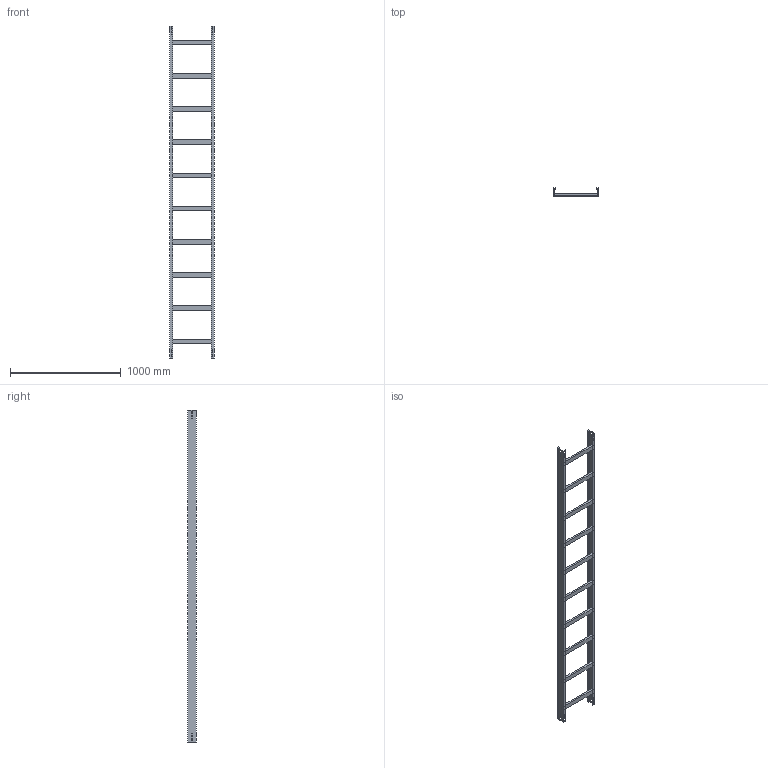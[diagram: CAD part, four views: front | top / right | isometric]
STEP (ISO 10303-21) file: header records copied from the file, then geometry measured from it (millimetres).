
FILE_DESCRIPTION (( 'STEP AP214' ), '1' );
FILE_NAME ('01B3C400.step', '2025-02-21T16:00:51', ( '' ), ( '' ), 'SwSTEP 2.0', 'SolidWorks 2023', '' );
FILE_SCHEMA (( 'AUTOMOTIVE_DESIGN' ));
Length unit declared in the file: millimetre
Products named in the file (3): LONGH.H75; 01B3C400; TRAVERSINO_400
Assembly tree (12 placements, depth 2):
  01B3C400
    LONGH.H75  x2
    TRAVERSINO_400  x10
Bounding box: 400 x 75 x 3000 mm (x, y, z)
Volume: 5554672 mm3; surface area: 1909856 mm2
Topology: 12 solids, 12 shells, 144 faces, 360 edges, 240 vertices
Faces by surface type: plane 144
Entity records: 1696 total; most frequent: CARTESIAN_POINT 283, ORIENTED_EDGE 264, DIRECTION 258, LINE 132, EDGE_CURVE 132, VECTOR 132, VERTEX_POINT 88, EDGE_LOOP 64
